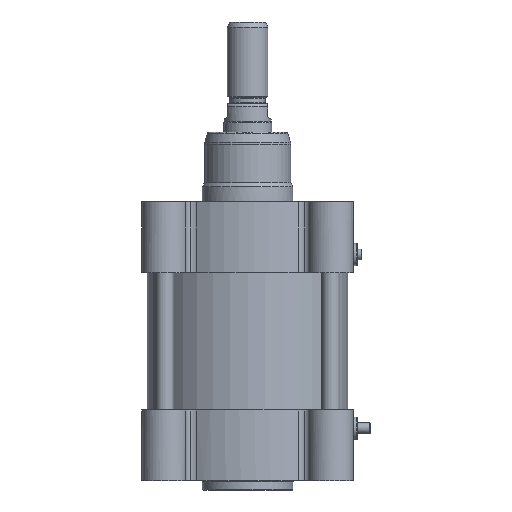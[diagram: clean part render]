
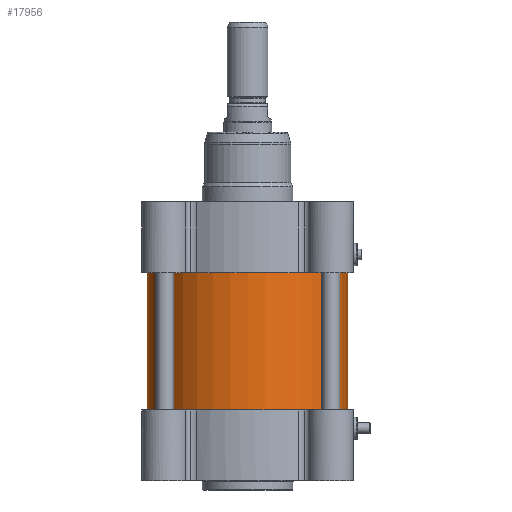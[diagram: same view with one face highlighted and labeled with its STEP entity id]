
A CAD part, front view. The second image highlights one B-rep face of the part: STEP entity #17956.
In plain terms, the highlighted cylindrical face has radius 66.5 mm (diameter 133 mm), a partial arc.
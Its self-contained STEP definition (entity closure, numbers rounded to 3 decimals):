
#911 = AXIS2_PLACEMENT_3D ( 'NONE', #8847, #6127, #3384 ) ;
#1019 = DIRECTION ( 'NONE',  ( 0., 0., 1. ) ) ;
#3015 = CARTESIAN_POINT ( 'NONE',  ( 66.5, 0., 0. ) ) ;
#3384 = DIRECTION ( 'NONE',  ( -1., 0., 0. ) ) ;
#3833 = ORIENTED_EDGE ( 'NONE', *, *, #13273, .T. ) ;
#4945 = VERTEX_POINT ( 'NONE', #31792 ) ;
#5087 = VECTOR ( 'NONE', #33837, 1000. ) ;
#5379 = EDGE_CURVE ( 'NONE', #16848, #4945, #24323, .T. ) ;
#6127 = DIRECTION ( 'NONE',  ( 0., 0., 1. ) ) ;
#8847 = CARTESIAN_POINT ( 'NONE',  ( 0., 0., 0. ) ) ;
#10944 = AXIS2_PLACEMENT_3D ( 'NONE', #34695, #23452, #29606 ) ;
#11587 = EDGE_CURVE ( 'NONE', #26512, #31005, #13266, .T. ) ;
#11688 = LINE ( 'NONE', #22758, #5087 ) ;
#13266 = CIRCLE ( 'NONE', #10944, 66.5 ) ;
#13273 = EDGE_CURVE ( 'NONE', #16848, #26512, #11688, .T. ) ;
#14283 = FACE_OUTER_BOUND ( 'NONE', #22697, .T. ) ;
#15328 = CARTESIAN_POINT ( 'NONE',  ( -66.5, 0., 91. ) ) ;
#15393 = DIRECTION ( 'NONE',  ( 0., 0., -1. ) ) ;
#15938 = CARTESIAN_POINT ( 'NONE',  ( 0., 0., 0. ) ) ;
#16848 = VERTEX_POINT ( 'NONE', #3015 ) ;
#16938 = EDGE_CURVE ( 'NONE', #4945, #31005, #30813, .T. ) ;
#17342 = ORIENTED_EDGE ( 'NONE', *, *, #11587, .T. ) ;
#17362 = CARTESIAN_POINT ( 'NONE',  ( -66.5, 0., 0. ) ) ;
#17956 = ADVANCED_FACE ( 'NONE', ( #14283 ), #22651, .T. ) ;
#20017 = VECTOR ( 'NONE', #1019, 1000. ) ;
#22651 = CYLINDRICAL_SURFACE ( 'NONE', #911, 66.5 ) ;
#22697 = EDGE_LOOP ( 'NONE', ( #23194, #3833, #17342, #34503 ) ) ;
#22758 = CARTESIAN_POINT ( 'NONE',  ( 66.5, 0., 0. ) ) ;
#23194 = ORIENTED_EDGE ( 'NONE', *, *, #5379, .F. ) ;
#23452 = DIRECTION ( 'NONE',  ( 0., 0., -1. ) ) ;
#24323 = CIRCLE ( 'NONE', #35870, 66.5 ) ;
#26512 = VERTEX_POINT ( 'NONE', #35740 ) ;
#29606 = DIRECTION ( 'NONE',  ( -1., 0., 0. ) ) ;
#30813 = LINE ( 'NONE', #17362, #20017 ) ;
#31005 = VERTEX_POINT ( 'NONE', #15328 ) ;
#31792 = CARTESIAN_POINT ( 'NONE',  ( -66.5, 0., 0. ) ) ;
#33837 = DIRECTION ( 'NONE',  ( 0., 0., 1. ) ) ;
#34503 = ORIENTED_EDGE ( 'NONE', *, *, #16938, .F. ) ;
#34695 = CARTESIAN_POINT ( 'NONE',  ( 0., 0., 91. ) ) ;
#35183 = DIRECTION ( 'NONE',  ( -1., 0., 0. ) ) ;
#35740 = CARTESIAN_POINT ( 'NONE',  ( 66.5, 0., 91. ) ) ;
#35870 = AXIS2_PLACEMENT_3D ( 'NONE', #15938, #15393, #35183 ) ;
